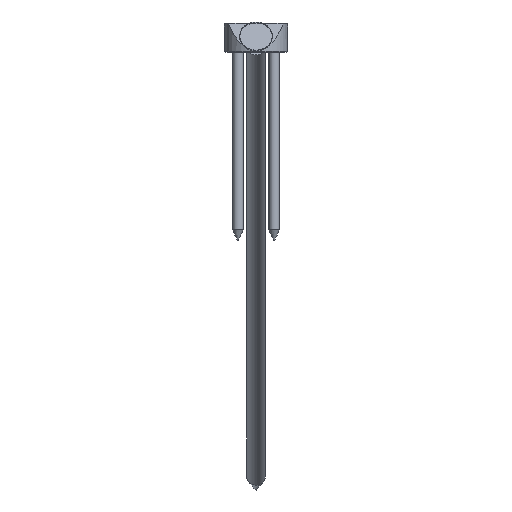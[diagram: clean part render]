
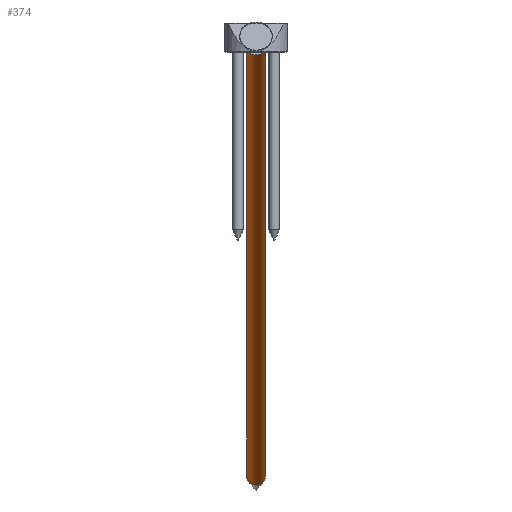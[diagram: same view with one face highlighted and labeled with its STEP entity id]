
A CAD part, front view. The second image highlights one B-rep face of the part: STEP entity #374.
In plain terms, the highlighted cylindrical face has radius 5 mm (diameter 10 mm), a full revolution.
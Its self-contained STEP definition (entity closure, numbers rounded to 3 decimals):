
#59=CYLINDRICAL_SURFACE('',#464,5.);
#132=ORIENTED_EDGE('',*,*,#169,.T.);
#133=ORIENTED_EDGE('',*,*,#168,.F.);
#168=EDGE_CURVE('',#199,#199,#226,.T.);
#169=EDGE_CURVE('',#200,#200,#227,.T.);
#199=VERTEX_POINT('',#700);
#200=VERTEX_POINT('',#703);
#226=CIRCLE('',#463,5.);
#227=CIRCLE('',#465,5.);
#279=EDGE_LOOP('',(#132));
#280=EDGE_LOOP('',(#133));
#334=FACE_BOUND('',#279,.T.);
#335=FACE_BOUND('',#280,.T.);
#374=ADVANCED_FACE('',(#334,#335),#59,.T.);
#463=AXIS2_PLACEMENT_3D('',#699,#584,#585);
#464=AXIS2_PLACEMENT_3D('',#701,#586,#587);
#465=AXIS2_PLACEMENT_3D('',#702,#588,#589);
#584=DIRECTION('',(0.,1.,0.));
#585=DIRECTION('',(0.,0.,1.));
#586=DIRECTION('',(0.,1.,0.));
#587=DIRECTION('',(0.,0.,1.));
#588=DIRECTION('',(0.,1.,0.));
#589=DIRECTION('',(0.,0.,1.));
#699=CARTESIAN_POINT('',(0.,42.,0.));
#700=CARTESIAN_POINT('',(0.,42.,5.));
#701=CARTESIAN_POINT('',(0.,54.,0.));
#702=CARTESIAN_POINT('',(0.,-433.,0.));
#703=CARTESIAN_POINT('',(0.,-433.,5.));
